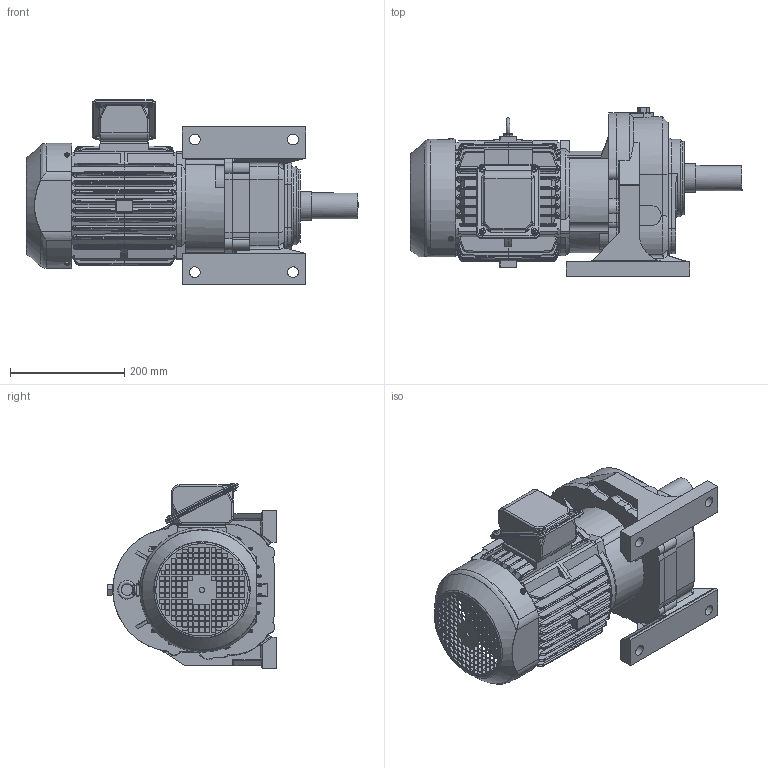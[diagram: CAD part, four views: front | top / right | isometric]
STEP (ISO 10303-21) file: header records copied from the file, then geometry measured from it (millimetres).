
FILE_DESCRIPTION (( 'STEP AP214' ), '1' );
FILE_NAME ('EK2DO07666H001_F1HM_2.2KW_R5_CUSTOMER.STEP', '2022-08-11T01:30:45', ( 'Windows 餌辨濠' ), ( '' ), 'SwSTEP 2.0', 'SolidWorks 2021', '' );
FILE_SCHEMA (( 'AUTOMOTIVE_DESIGN' ));
Length unit declared in the file: millimetre
Products named in the file (1): EK2DO07666H001_F1HM_2.2KW_R5_CUSTOMER
Bounding box: 580.5 x 295 x 324.46 mm (x, y, z)
Volume: 15744341.3 mm3; surface area: 1052243.8 mm2
Topology: 17 solids, 17 shells, 3238 faces, 8581 edges, 5386 vertices
Faces by surface type: cylinder 1327, plane 1284, bspline 571, cone 56
Full cylindrical faces by diameter (mm): 4.917 x4, 5 x3, 6 x9, 6.647 x7, 7 x8, 8 x5, 9 x1, 10 x8, 10.5 x4, 13 x2, 16 x1, 18 x1, 19 x4, 19.242 x1, 40 x1, 45 x2, 50 x1, 128 x1, 136 x1, 182 x2
Entity records: 168631 total; most frequent: CARTESIAN_POINT 55965, ORIENTED_EDGE 16866, DIRECTION 14817, EDGE_CURVE 8433, VERTEX_POINT 5364, AXIS2_PLACEMENT_3D 5162, LINE 4493, VECTOR 4493
